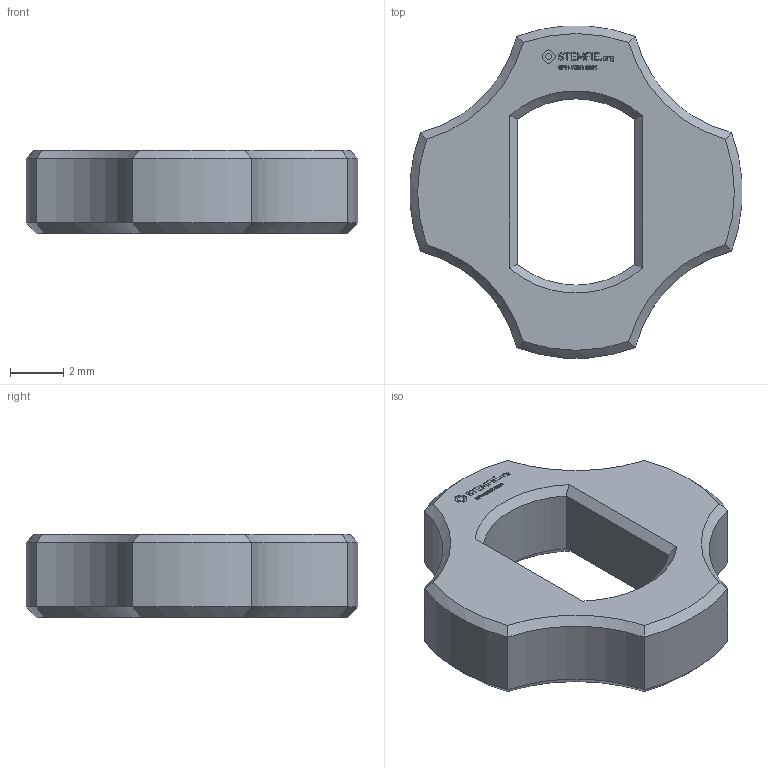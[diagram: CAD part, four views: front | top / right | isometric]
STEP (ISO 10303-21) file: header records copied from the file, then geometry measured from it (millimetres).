
FILE_DESCRIPTION(/* description */ (''),/* implementation_level */ '2;1');
FILE_NAME(/* name */ '/Users/paulokiefe/Desktop/STEMFIE/Fasteners/Washers/Fixed/Washer FXD BU1x0.25 - SPN-WSR-0001 v7.step',/* time_stamp */ '2020-09-27T23:11:06+02:00',/* author */ (''),/* organization */ (''),/* preprocessor_version */ 'ST-DEVELOPER v18.1',/* originating_system */ 'Autodesk Translation Framework v9.3.0.1241',/* authorisation */ '');
FILE_SCHEMA (('AUTOMOTIVE_DESIGN { 1 0 10303 214 3 1 1 }'));
Length unit declared in the file: millimetre
Products named in the file (1): Washer FXD BU1x0.25 - SPN-WSR-0001
Bounding box: 12.47 x 12.47 x 3.12 mm (x, y, z)
Volume: 232.6 mm3; surface area: 317.8 mm2
Topology: 1 solids, 1 shells, 498 faces, 1368 edges, 904 vertices
Faces by surface type: plane 305, bspline 163, cone 20, cylinder 10
Entity records: 17171 total; most frequent: CARTESIAN_POINT 5614, ORIENTED_EDGE 2736, DIRECTION 1730, EDGE_CURVE 1368, LINE 978, VECTOR 978, VERTEX_POINT 904, EDGE_LOOP 532
